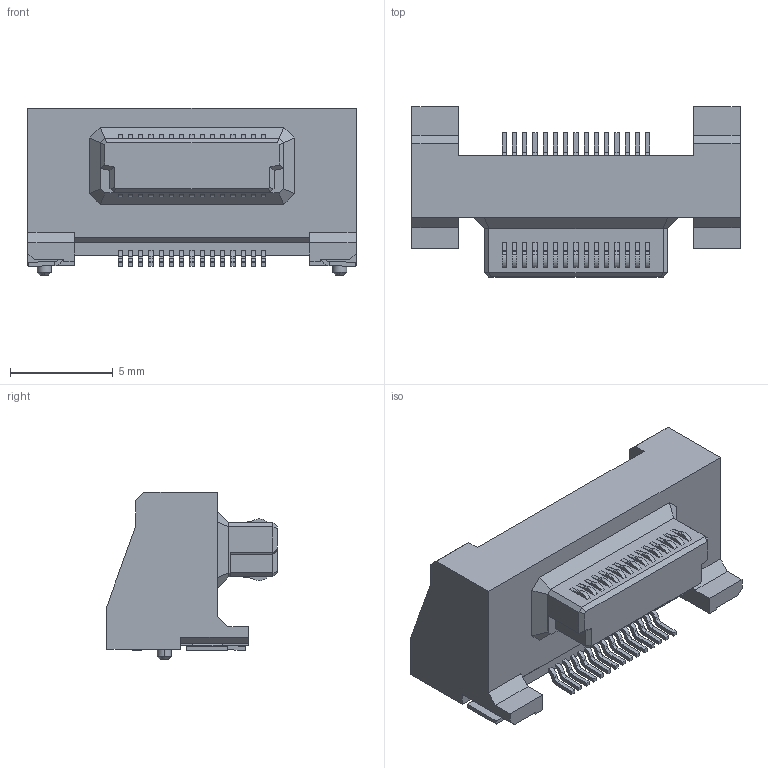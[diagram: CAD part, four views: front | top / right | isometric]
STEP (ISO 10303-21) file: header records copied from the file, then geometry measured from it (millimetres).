
FILE_DESCRIPTION(('Creo Elements/Direct Modeling STEP Export'),'2;1');
FILE_NAME('DY11-030L.stp','2017-11-30T16:00:19',(''),(''),'Creo Elements/Direct Modeling STEP processor for AP214 (Solid Model)','Creo Elements/Direct Modeling 19.0F 14-Feb-2017 (C) Parametric Technology GmbH','');
FILE_SCHEMA(('AUTOMOTIVE_DESIGN { 1 0 10303 214 1 1 1 1 }'));
Length unit declared in the file: millimetre
Products named in the file (2): DY11-030L
Assembly tree (1 placements, depth 2):
  DY11-030L
    DY11-030L
Bounding box: 16 x 8.3 x 8.15 mm (x, y, z)
Volume: 475.4 mm3; surface area: 594 mm2
Topology: 1 solids, 1 shells, 572 faces, 1553 edges, 1018 vertices
Faces by surface type: plane 410, cylinder 158, cone 4
Entity records: 17574 total; most frequent: ORIENTED_EDGE 3106, CARTESIAN_POINT 3067, DIRECTION 2903, EDGE_CURVE 1553, VECTOR 1195, LINE 1195, VERTEX_POINT 1018, AXIS2_PLACEMENT_3D 854
